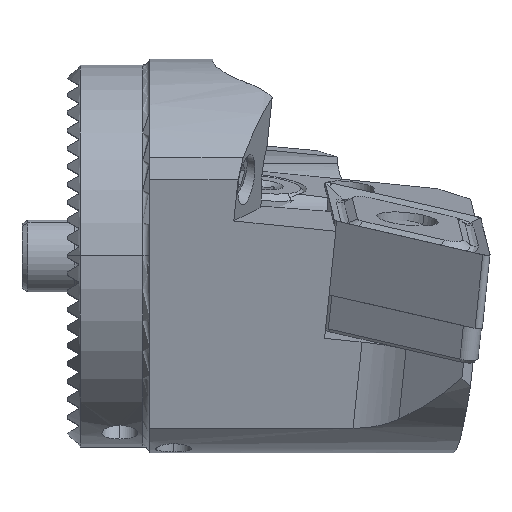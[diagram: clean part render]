
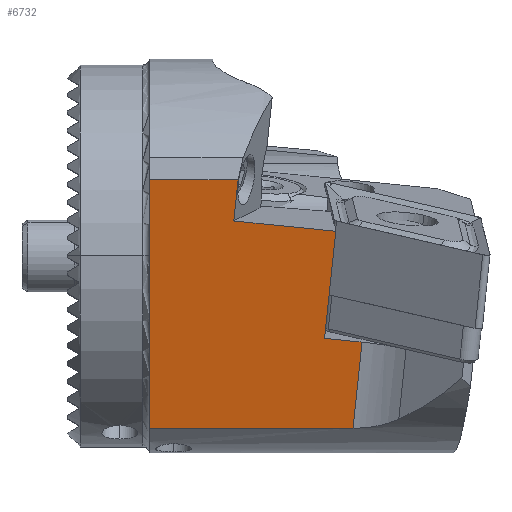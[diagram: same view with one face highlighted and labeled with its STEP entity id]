
A CAD part, top view. The second image highlights one B-rep face of the part: STEP entity #6732.
In plain terms, the highlighted planar face has unit normal (0, -0.208, 0.978).
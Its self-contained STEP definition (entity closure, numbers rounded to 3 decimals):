
#55 = VECTOR ( 'NONE', #15527, 1000. ) ;
#283 = LINE ( 'NONE', #17996, #10894 ) ;
#386 = LINE ( 'NONE', #15011, #8449 ) ;
#442 = DIRECTION ( 'NONE',  ( -0.102, -0.973, -0.207 ) ) ;
#810 = VECTOR ( 'NONE', #8092, 1000. ) ;
#1051 = EDGE_CURVE ( 'NONE', #11701, #7228, #10495, .T. ) ;
#1688 = LINE ( 'NONE', #18720, #11117 ) ;
#1773 = CARTESIAN_POINT ( 'NONE',  ( 21.763, -31.255, 10.225 ) ) ;
#1941 = LINE ( 'NONE', #9264, #17485 ) ;
#3761 = EDGE_LOOP ( 'NONE', ( #18450, #17526, #16399, #4019, #12810, #13844, #4692, #15642, #12128, #15885 ) ) ;
#4019 = ORIENTED_EDGE ( 'NONE', *, *, #13450, .F. ) ;
#4070 = B_SPLINE_CURVE_WITH_KNOTS ( 'NONE', 3,
 ( #8698, #16210, #7260, #19217, #11749 ),
 .UNSPECIFIED., .F., .F.,
 ( 4, 1, 4 ),
 ( 0.003, 0.005, 0.007 ),
 .UNSPECIFIED. ) ;
#4131 = VERTEX_POINT ( 'NONE', #13837 ) ;
#4460 = DIRECTION ( 'NONE',  ( -0.995, 0.1, 0.021 ) ) ;
#4692 = ORIENTED_EDGE ( 'NONE', *, *, #14198, .T. ) ;
#4788 = FACE_OUTER_BOUND ( 'NONE', #3761, .T. ) ;
#4941 = CARTESIAN_POINT ( 'NONE',  ( 6.5, -1.651, 16.518 ) ) ;
#5805 = EDGE_CURVE ( 'NONE', #9031, #6736, #386, .T. ) ;
#5811 = CARTESIAN_POINT ( 'NONE',  ( 6.5, 6.369, 18.222 ) ) ;
#5980 = CARTESIAN_POINT ( 'NONE',  ( 21.144, -6.924, 15.397 ) ) ;
#6275 = DIRECTION ( 'NONE',  ( -1., 0., 0. ) ) ;
#6358 = DIRECTION ( 'NONE',  ( 0.102, 0.973, 0.207 ) ) ;
#6732 = ADVANCED_FACE ( 'NONE', ( #4788 ), #7258, .F. ) ;
#6736 = VERTEX_POINT ( 'NONE', #16208 ) ;
#7015 = DIRECTION ( 'NONE',  ( -0.102, -0.973, -0.207 ) ) ;
#7228 = VERTEX_POINT ( 'NONE', #14385 ) ;
#7258 = PLANE ( 'NONE',  #7513 ) ;
#7260 = CARTESIAN_POINT ( 'NONE',  ( 6.483, -3.431, 16.139 ) ) ;
#7399 = LINE ( 'NONE', #10921, #13215 ) ;
#7513 = AXIS2_PLACEMENT_3D ( 'NONE', #19032, #17777, #9977 ) ;
#8092 = DIRECTION ( 'NONE',  ( 0., 0.978, 0.208 ) ) ;
#8449 = VECTOR ( 'NONE', #4460, 1000. ) ;
#8630 = CARTESIAN_POINT ( 'NONE',  ( -1.123, -14.447, 13.798 ) ) ;
#8698 = CARTESIAN_POINT ( 'NONE',  ( 6.5, -5.21, 15.761 ) ) ;
#9031 = VERTEX_POINT ( 'NONE', #18749 ) ;
#9264 = CARTESIAN_POINT ( 'NONE',  ( 10.077, -30.08, 10.475 ) ) ;
#9434 = LINE ( 'NONE', #1773, #19507 ) ;
#9489 = CARTESIAN_POINT ( 'NONE',  ( 13.908, 6.369, 18.222 ) ) ;
#9615 = DIRECTION ( 'NONE',  ( 0., 0.978, 0.208 ) ) ;
#9760 = CARTESIAN_POINT ( 'NONE',  ( 6.5, 16.662, 20.41 ) ) ;
#9977 = DIRECTION ( 'NONE',  ( 0., 0.978, 0.208 ) ) ;
#10337 = VERTEX_POINT ( 'NONE', #4941 ) ;
#10495 = LINE ( 'NONE', #9760, #810 ) ;
#10894 = VECTOR ( 'NONE', #6275, 1000. ) ;
#10921 = CARTESIAN_POINT ( 'NONE',  ( 21.144, -6.924, 15.397 ) ) ;
#11117 = VECTOR ( 'NONE', #9615, 1000. ) ;
#11701 = VERTEX_POINT ( 'NONE', #11760 ) ;
#11749 = CARTESIAN_POINT ( 'NONE',  ( 6.5, -1.651, 16.518 ) ) ;
#11760 = CARTESIAN_POINT ( 'NONE',  ( 6.5, -14.447, 13.798 ) ) ;
#11941 = EDGE_CURVE ( 'NONE', #16163, #6736, #1941, .T. ) ;
#12004 = EDGE_CURVE ( 'NONE', #16163, #13065, #283, .T. ) ;
#12128 = ORIENTED_EDGE ( 'NONE', *, *, #16865, .F. ) ;
#12794 = VERTEX_POINT ( 'NONE', #17568 ) ;
#12810 = ORIENTED_EDGE ( 'NONE', *, *, #1051, .F. ) ;
#13065 = VERTEX_POINT ( 'NONE', #5811 ) ;
#13215 = VECTOR ( 'NONE', #442, 1000. ) ;
#13450 = EDGE_CURVE ( 'NONE', #7228, #10337, #4070, .T. ) ;
#13558 = VERTEX_POINT ( 'NONE', #5980 ) ;
#13837 = CARTESIAN_POINT ( 'NONE',  ( 24.287, -7.24, 15.33 ) ) ;
#13844 = ORIENTED_EDGE ( 'NONE', *, *, #17634, .F. ) ;
#13946 = CARTESIAN_POINT ( 'NONE',  ( 34.074, -8.224, 15.12 ) ) ;
#14198 = EDGE_CURVE ( 'NONE', #12794, #4131, #9434, .T. ) ;
#14385 = CARTESIAN_POINT ( 'NONE',  ( 6.5, -5.21, 15.761 ) ) ;
#15011 = CARTESIAN_POINT ( 'NONE',  ( 1.091, 4.158, 17.753 ) ) ;
#15073 = LINE ( 'NONE', #8630, #19065 ) ;
#15527 = DIRECTION ( 'NONE',  ( -0.995, 0.1, 0.021 ) ) ;
#15642 = ORIENTED_EDGE ( 'NONE', *, *, #15712, .T. ) ;
#15712 = EDGE_CURVE ( 'NONE', #4131, #13558, #16552, .T. ) ;
#15885 = ORIENTED_EDGE ( 'NONE', *, *, #5805, .T. ) ;
#16163 = VERTEX_POINT ( 'NONE', #9489 ) ;
#16208 = CARTESIAN_POINT ( 'NONE',  ( 13.544, 2.906, 17.486 ) ) ;
#16210 = CARTESIAN_POINT ( 'NONE',  ( 6.5, -4.617, 15.887 ) ) ;
#16399 = ORIENTED_EDGE ( 'NONE', *, *, #16910, .F. ) ;
#16552 = LINE ( 'NONE', #13946, #55 ) ;
#16865 = EDGE_CURVE ( 'NONE', #9031, #13558, #7399, .T. ) ;
#16910 = EDGE_CURVE ( 'NONE', #10337, #13065, #1688, .T. ) ;
#17485 = VECTOR ( 'NONE', #7015, 1000. ) ;
#17526 = ORIENTED_EDGE ( 'NONE', *, *, #12004, .T. ) ;
#17568 = CARTESIAN_POINT ( 'NONE',  ( 23.529, -14.447, 13.798 ) ) ;
#17634 = EDGE_CURVE ( 'NONE', #12794, #11701, #15073, .T. ) ;
#17777 = DIRECTION ( 'NONE',  ( 0., 0.208, -0.978 ) ) ;
#17996 = CARTESIAN_POINT ( 'NONE',  ( 6.5, 6.369, 18.222 ) ) ;
#18450 = ORIENTED_EDGE ( 'NONE', *, *, #11941, .F. ) ;
#18720 = CARTESIAN_POINT ( 'NONE',  ( 6.5, 16.662, 20.41 ) ) ;
#18749 = CARTESIAN_POINT ( 'NONE',  ( 22.087, 2.047, 17.304 ) ) ;
#19029 = DIRECTION ( 'NONE',  ( -1., 0., 0. ) ) ;
#19032 = CARTESIAN_POINT ( 'NONE',  ( 21.763, -31.255, 10.225 ) ) ;
#19065 = VECTOR ( 'NONE', #19029, 1000. ) ;
#19217 = CARTESIAN_POINT ( 'NONE',  ( 6.5, -2.244, 16.392 ) ) ;
#19507 = VECTOR ( 'NONE', #6358, 1000. ) ;
